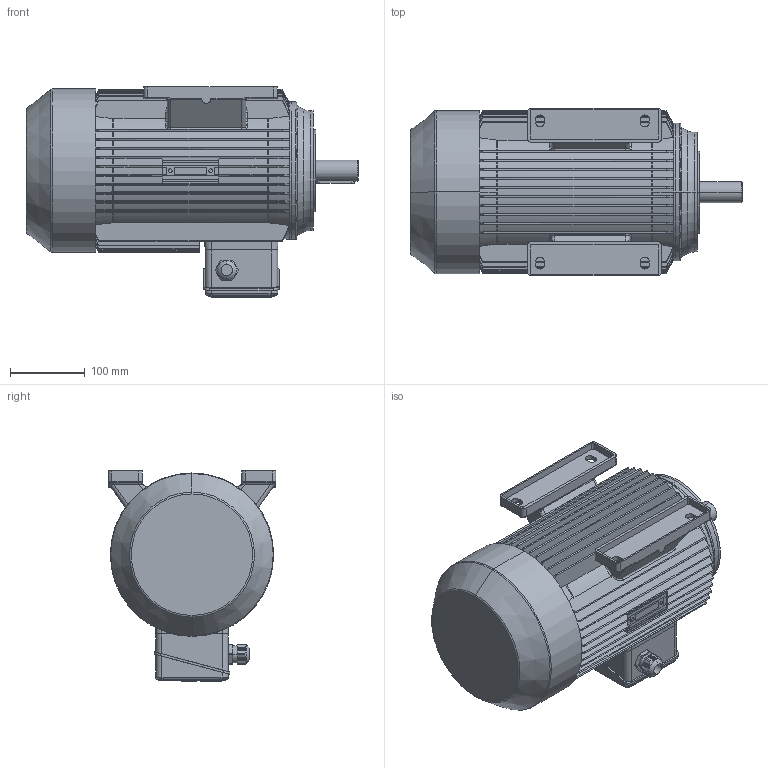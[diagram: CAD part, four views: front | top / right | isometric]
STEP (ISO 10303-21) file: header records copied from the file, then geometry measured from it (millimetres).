
FILE_DESCRIPTION (( 'STEP AP214' ), '1' );
FILE_NAME ('MAP112M6A IM2141 FT130.STEP', '2021-03-08T07:15:53', ( '' ), ( '' ), 'SwSTEP 2.0', 'SolidWorks 2018', '' );
FILE_SCHEMA (( 'AUTOMOTIVE_DESIGN' ));
Length unit declared in the file: millimetre
Products named in the file (1): MAP112M6A IM2141 FT130
Bounding box: 444 x 224.5 x 281 mm (x, y, z)
Volume: 12119566.3 mm3; surface area: 791010 mm2
Topology: 3 solids, 8 shells, 1204 faces, 3223 edges, 2079 vertices
Faces by surface type: plane 536, cylinder 284, cone 153, torus 118, bspline 111, sphere 2
Entity records: 46930 total; most frequent: CARTESIAN_POINT 18482, ORIENTED_EDGE 6434, DIRECTION 5237, EDGE_CURVE 3217, VERTEX_POINT 2079, AXIS2_PLACEMENT_3D 1843, LINE 1551, VECTOR 1551
